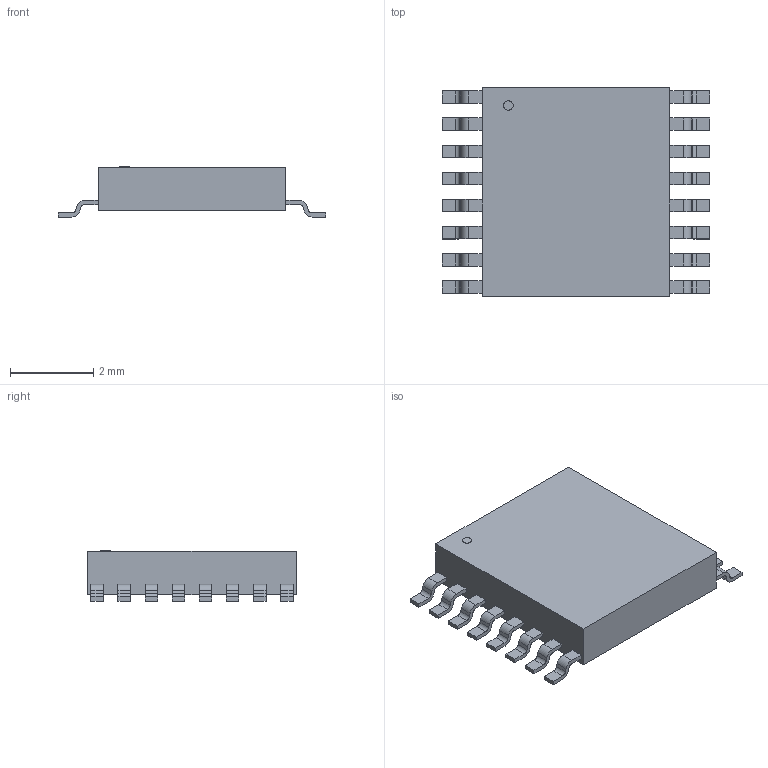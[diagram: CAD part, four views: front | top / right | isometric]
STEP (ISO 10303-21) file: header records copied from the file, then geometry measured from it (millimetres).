
FILE_DESCRIPTION(('STEP AP214'),'1');
FILE_NAME('RU_16_ADI','2026-01-01T05:08:52',(''),(''),'','','');
FILE_SCHEMA(('AUTOMOTIVE_DESIGN'));
Length unit declared in the file: millimetre
Products named in the file (1): product
Bounding box: 6.4 x 5 x 1.2 mm (x, y, z)
Volume: 24.2 mm3; surface area: 80.2 mm2
Topology: 18 solids, 18 shells, 233 faces, 591 edges, 394 vertices
Faces by surface type: plane 168, cylinder 65
Full cylindrical faces by diameter (mm): 0.225 x1
Entity records: 6837 total; most frequent: DIRECTION 1190, ORIENTED_EDGE 1180, CARTESIAN_POINT 695, EDGE_CURVE 590, LINE 460, VECTOR 460, VERTEX_POINT 394, AXIS2_PLACEMENT_3D 365
